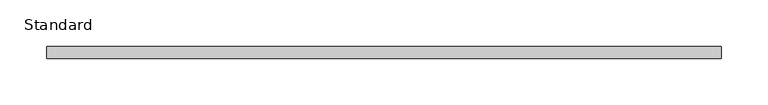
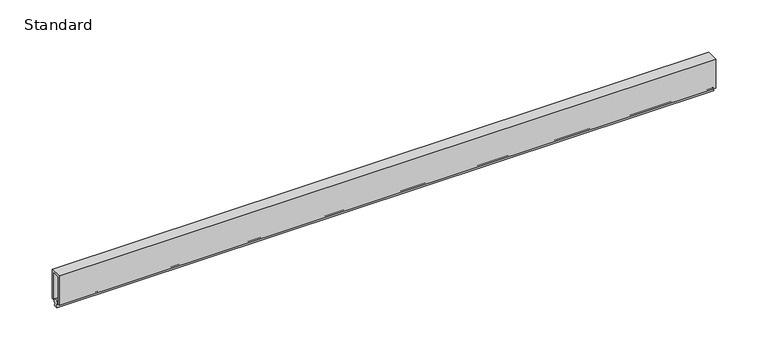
"""IFC4 building model written with IfcOpenShell, lengths in millimetres: furniture geometry, X_Partition-Seal-Duracube-Door Bottom : Standard."""

from ifc_helpers import new_model, si_unit, point, frame, frame_2d, origin, place, context, project, spatial, polyline, circle_curve, trimmed, segment, composite_curve, outline, extrude, source, transform, mapped, element, save


def standard_8cc50bd6(model_context):
    return source(origin(), model_context, "Body", "SweptSolid", [
        extrude(outline(polyline([(0.0, 40.0), (0.0, 6.0), (-2.0, 6.0), (-2.0, 38.0), (-11.0, 38.0), (-11.0, 6.0), (-13.0, 6.0), (-13.0, 40.0), (0.0, 40.0)])), frame((-317.7996736, 0.0, 0.0), z_axis=(1.0, 0.0, 0.0), x_axis=(0.0, 1.0, 0.0)), (0.0, 0.0, 1.0), 725.0),
        extrude(outline(composite_curve([segment(trimmed(circle_curve(frame_2d((-6.5, 6.0)), 3.0), [point((-7.5933176, 3.2063184))], [point((-5.4066824, 3.2063184))], False, "CARTESIAN"), True, "CONTINUOUS"), segment(polyline([(-5.4066824, 3.2063184), (-3.9951979, 0.7615556)]), True, "CONTINUOUS"), segment(trimmed(circle_curve(frame_2d((-6.5, 4.5)), 4.5), [point((-3.9951979, 0.7615556))], [point((-9.0048021, 0.7615556))], False, "CARTESIAN"), True, "CONTINUOUS"), segment(polyline([(-9.0048021, 0.7615556), (-7.5933176, 3.2063184)]), True, "CONTINUOUS")], self_intersect=False)), frame((-317.7996736, 0.0, 0.0), z_axis=(1.0, 0.0, 0.0), x_axis=(0.0, 1.0, 0.0)), (0.0, 0.0, 1.0), 725.0),
    ])


if __name__ == "__main__":
    model = new_model("IFC4")
    model_context = context("Model", 3, world=origin())
    ifc_project = project(units=[si_unit("LENGTHUNIT", "METRE", prefix="MILLI")], contexts=[model_context])
    site = spatial("IfcSite", under=ifc_project)
    building = spatial("IfcBuilding", under=site)
    placement = place(None, origin())
    standard_shape = standard_8cc50bd6(model_context)
    element("IfcFurniture", 1, ObjectType="X_Partition-Seal-Duracube-Door Bottom : Standard", at=placement, inside=building, context=model_context, shape_type="MappedRepresentation", body=[
        mapped(standard_shape, transform((0.0, 0.0, 0.0), x_axis=(1.0, 0.0, 0.0), y_axis=(0.0, 1.0, 0.0), z_axis=(0.0, 0.0, 1.0))),
    ])
    save(model, "model.ifc")
